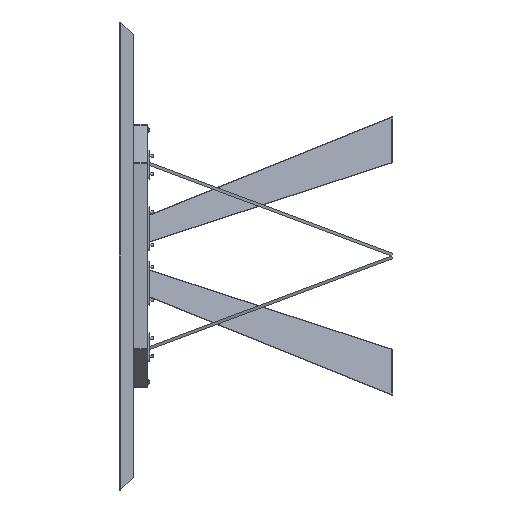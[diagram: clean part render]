
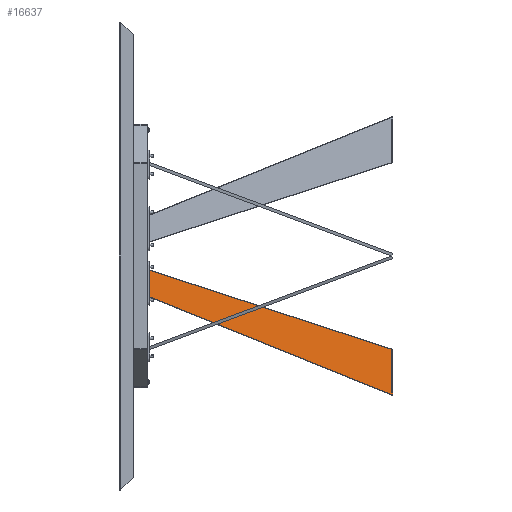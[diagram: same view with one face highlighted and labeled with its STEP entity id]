
A CAD part, left-side view. The second image highlights one B-rep face of the part: STEP entity #16637.
In plain terms, the highlighted planar face has unit normal (-0.937, -0.35, 0) as drawn and (-1, 0, 0) by its records, which use the part's own axes.
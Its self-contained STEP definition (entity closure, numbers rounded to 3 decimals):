
#390 = CARTESIAN_POINT ( 'NONE',  ( -4., 0., 0. ) ) ;
#573 = PLANE ( 'NONE',  #7841 ) ;
#762 = FACE_OUTER_BOUND ( 'NONE', #17366, .T. ) ;
#1435 = CARTESIAN_POINT ( 'NONE',  ( -4., 47.351, -14.477 ) ) ;
#1436 = VERTEX_POINT ( 'NONE', #4852 ) ;
#1584 = VECTOR ( 'NONE', #2949, 1000. ) ;
#1791 = DIRECTION ( 'NONE',  ( 1., 0., 0. ) ) ;
#2949 = DIRECTION ( 'NONE',  ( 0., 1., 0. ) ) ;
#3714 = CARTESIAN_POINT ( 'NONE',  ( -4., 830.546, 119.538 ) ) ;
#4340 = LINE ( 'NONE', #8419, #18120 ) ;
#4599 = EDGE_CURVE ( 'NONE', #13321, #1436, #15344, .T. ) ;
#4852 = CARTESIAN_POINT ( 'NONE',  ( -4., 73.118, 69.801 ) ) ;
#5292 = CARTESIAN_POINT ( 'NONE',  ( -4., 830.546, 119.538 ) ) ;
#6855 = EDGE_CURVE ( 'NONE', #6983, #1436, #15035, .T. ) ;
#6983 = VERTEX_POINT ( 'NONE', #3714 ) ;
#7170 = CARTESIAN_POINT ( 'NONE',  ( -4., 51.777, 0. ) ) ;
#7451 = DIRECTION ( 'NONE',  ( 0., 0., -1. ) ) ;
#7593 = ORIENTED_EDGE ( 'NONE', *, *, #15567, .F. ) ;
#7633 = VECTOR ( 'NONE', #10983, 1000. ) ;
#7841 = AXIS2_PLACEMENT_3D ( 'NONE', #390, #1791, #7451 ) ;
#8419 = CARTESIAN_POINT ( 'NONE',  ( -4., 794., 0. ) ) ;
#8608 = DIRECTION ( 'NONE',  ( 0., 0.292, 0.956 ) ) ;
#9756 = EDGE_CURVE ( 'NONE', #14684, #6983, #4340, .T. ) ;
#10114 = ORIENTED_EDGE ( 'NONE', *, *, #9756, .F. ) ;
#10584 = DIRECTION ( 'NONE',  ( 0., -0.998, -0.066 ) ) ;
#10983 = DIRECTION ( 'NONE',  ( 0., 0.292, 0.956 ) ) ;
#13321 = VERTEX_POINT ( 'NONE', #7170 ) ;
#13731 = ORIENTED_EDGE ( 'NONE', *, *, #4599, .T. ) ;
#14684 = VERTEX_POINT ( 'NONE', #15439 ) ;
#15035 = LINE ( 'NONE', #5292, #17452 ) ;
#15344 = LINE ( 'NONE', #1435, #7633 ) ;
#15439 = CARTESIAN_POINT ( 'NONE',  ( -4., 794., 0. ) ) ;
#15567 = EDGE_CURVE ( 'NONE', #13321, #14684, #15645, .T. ) ;
#15645 = LINE ( 'NONE', #17318, #1584 ) ;
#15681 = ORIENTED_EDGE ( 'NONE', *, *, #6855, .F. ) ;
#16637 = ADVANCED_FACE ( 'NONE', ( #762 ), #573, .F. ) ;
#17318 = CARTESIAN_POINT ( 'NONE',  ( -4., 0., 0. ) ) ;
#17366 = EDGE_LOOP ( 'NONE', ( #7593, #13731, #15681, #10114 ) ) ;
#17452 = VECTOR ( 'NONE', #10584, 1000. ) ;
#18120 = VECTOR ( 'NONE', #8608, 1000. ) ;
